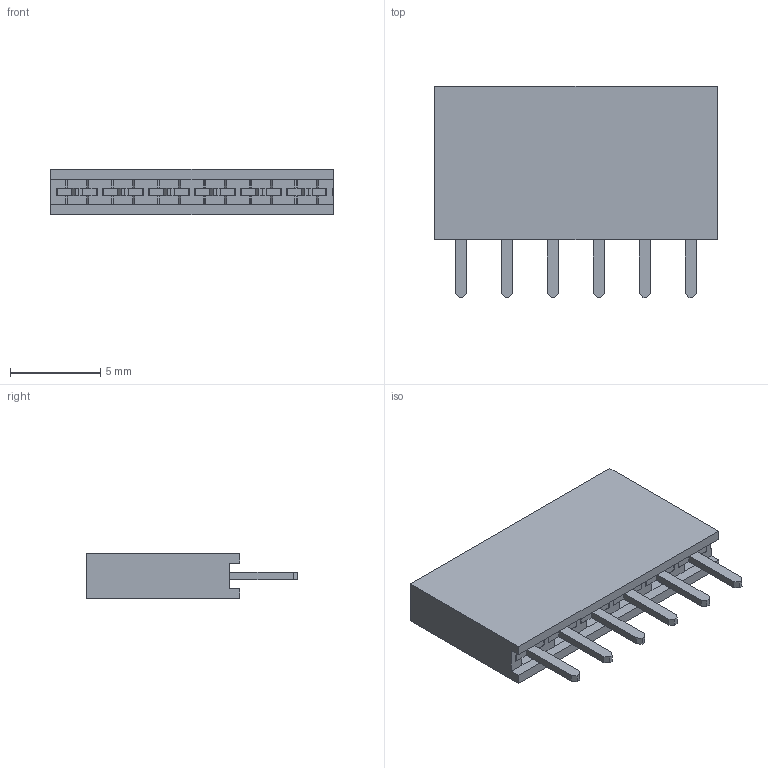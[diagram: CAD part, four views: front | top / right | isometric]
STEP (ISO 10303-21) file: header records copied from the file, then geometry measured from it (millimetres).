
FILE_DESCRIPTION (( 'STEP AP214' ), '1' );
FILE_NAME ('2044-1X06G00SA.STEP', '2020-04-14T09:12:34', ( 'ADMIN' ), ( '' ), 'SwSTEP 2.0', 'SolidWorks 2011', '' );
FILE_SCHEMA (( 'AUTOMOTIVE_DESIGN' ));
Length unit declared in the file: millimetre
Products named in the file (3): 2044-1X06G00SA; H-2044-1X06G00SA; P-2044-1X06G00SA
Assembly tree (7 placements, depth 2):
  2044-1X06G00SA
    P-2044-1X06G00SA  x6
    H-2044-1X06G00SA
Bounding box: 15.64 x 11.7 x 2.5 mm (x, y, z)
Volume: 300.5 mm3; surface area: 659.8 mm2
Topology: 19 solids, 19 shells, 434 faces, 1128 edges, 744 vertices
Faces by surface type: plane 416, cylinder 18
Entity records: 9762 total; most frequent: CARTESIAN_POINT 1944, ORIENTED_EDGE 1626, DIRECTION 1341, EDGE_CURVE 813, LINE 711, VECTOR 711, VERTEX_POINT 534, AXIS2_PLACEMENT_3D 315
